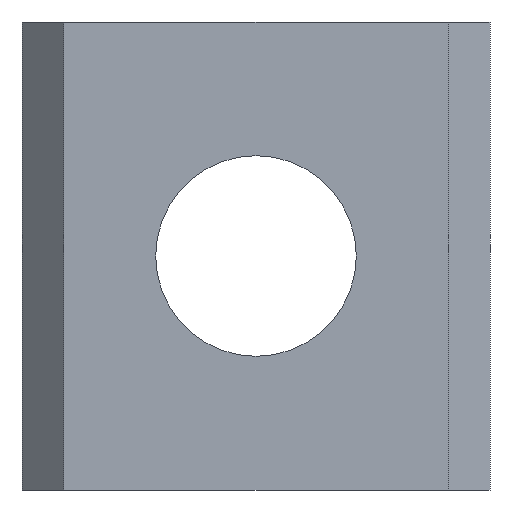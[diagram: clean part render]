
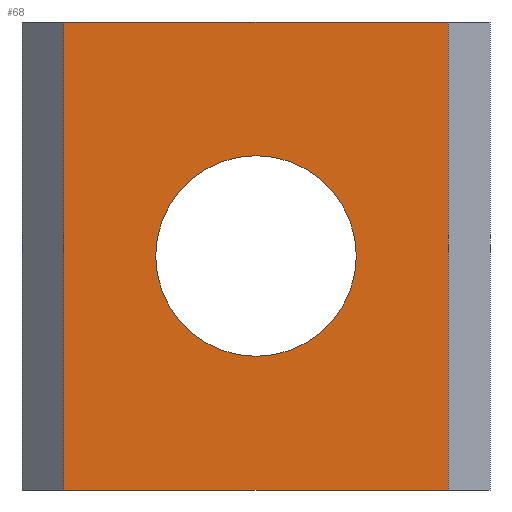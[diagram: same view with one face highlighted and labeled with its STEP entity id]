
A CAD part, front view. The second image highlights one B-rep face of the part: STEP entity #68.
In plain terms, the highlighted planar face has unit normal (0, -1, 0).
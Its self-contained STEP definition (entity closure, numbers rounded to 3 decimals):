
#6 = EDGE_CURVE ( 'NONE', #562, #292, #99, .T. ) ;
#7 = EDGE_CURVE ( 'NONE', #292, #287, #326, .T. ) ;
#54 = VECTOR ( 'NONE', #538, 1000. ) ;
#57 = CARTESIAN_POINT ( 'NONE',  ( -11.5, -10., 14. ) ) ;
#58 = VERTEX_POINT ( 'NONE', #311 ) ;
#68 = ADVANCED_FACE ( 'NONE', ( #183, #412 ), #212, .F. ) ;
#85 = CARTESIAN_POINT ( 'NONE',  ( -11.5, -10., -14. ) ) ;
#99 = LINE ( 'NONE', #165, #554 ) ;
#100 = DIRECTION ( 'NONE',  ( 0., 1., 0. ) ) ;
#114 = VERTEX_POINT ( 'NONE', #125 ) ;
#121 = AXIS2_PLACEMENT_3D ( 'NONE', #271, #207, #206 ) ;
#125 = CARTESIAN_POINT ( 'NONE',  ( 0., -10., -6. ) ) ;
#143 = ORIENTED_EDGE ( 'NONE', *, *, #7, .F. ) ;
#158 = VERTEX_POINT ( 'NONE', #85 ) ;
#165 = CARTESIAN_POINT ( 'NONE',  ( -11.5, -10., 14. ) ) ;
#166 = ORIENTED_EDGE ( 'NONE', *, *, #377, .T. ) ;
#168 = ORIENTED_EDGE ( 'NONE', *, *, #452, .T. ) ;
#177 = ORIENTED_EDGE ( 'NONE', *, *, #353, .T. ) ;
#181 = LINE ( 'NONE', #368, #54 ) ;
#183 = FACE_BOUND ( 'NONE', #497, .T. ) ;
#192 = CARTESIAN_POINT ( 'NONE',  ( 0., -10., 0. ) ) ;
#205 = VECTOR ( 'NONE', #481, 1000. ) ;
#206 = DIRECTION ( 'NONE',  ( 0., 0., 1. ) ) ;
#207 = DIRECTION ( 'NONE',  ( 0., 1., 0. ) ) ;
#212 = PLANE ( 'NONE',  #121 ) ;
#238 = DIRECTION ( 'NONE',  ( 0., 0., 1. ) ) ;
#240 = DIRECTION ( 'NONE',  ( 0., 0., -1. ) ) ;
#269 = CARTESIAN_POINT ( 'NONE',  ( 11.5, -10., 14. ) ) ;
#271 = CARTESIAN_POINT ( 'NONE',  ( -11.5, -10., 14. ) ) ;
#287 = VERTEX_POINT ( 'NONE', #528 ) ;
#292 = VERTEX_POINT ( 'NONE', #269 ) ;
#303 = CIRCLE ( 'NONE', #350, 6. ) ;
#311 = CARTESIAN_POINT ( 'NONE',  ( 0., -10., 6. ) ) ;
#326 = LINE ( 'NONE', #439, #205 ) ;
#350 = AXIS2_PLACEMENT_3D ( 'NONE', #369, #100, #420 ) ;
#353 = EDGE_CURVE ( 'NONE', #158, #287, #181, .T. ) ;
#368 = CARTESIAN_POINT ( 'NONE',  ( -11.5, -10., -14. ) ) ;
#369 = CARTESIAN_POINT ( 'NONE',  ( 0., -10., 0. ) ) ;
#377 = EDGE_CURVE ( 'NONE', #114, #58, #303, .T. ) ;
#390 = EDGE_CURVE ( 'NONE', #58, #114, #523, .T. ) ;
#398 = VECTOR ( 'NONE', #240, 1000. ) ;
#412 = FACE_OUTER_BOUND ( 'NONE', #447, .T. ) ;
#419 = AXIS2_PLACEMENT_3D ( 'NONE', #192, #503, #238 ) ;
#420 = DIRECTION ( 'NONE',  ( 0., 0., 1. ) ) ;
#439 = CARTESIAN_POINT ( 'NONE',  ( 11.5, -10., 14. ) ) ;
#440 = DIRECTION ( 'NONE',  ( 1., 0., 0. ) ) ;
#447 = EDGE_LOOP ( 'NONE', ( #177, #143, #454, #168 ) ) ;
#452 = EDGE_CURVE ( 'NONE', #562, #158, #512, .T. ) ;
#454 = ORIENTED_EDGE ( 'NONE', *, *, #6, .F. ) ;
#481 = DIRECTION ( 'NONE',  ( 0., 0., -1. ) ) ;
#497 = EDGE_LOOP ( 'NONE', ( #513, #166 ) ) ;
#503 = DIRECTION ( 'NONE',  ( 0., 1., 0. ) ) ;
#509 = CARTESIAN_POINT ( 'NONE',  ( -11.5, -10., 14. ) ) ;
#512 = LINE ( 'NONE', #509, #398 ) ;
#513 = ORIENTED_EDGE ( 'NONE', *, *, #390, .T. ) ;
#523 = CIRCLE ( 'NONE', #419, 6. ) ;
#528 = CARTESIAN_POINT ( 'NONE',  ( 11.5, -10., -14. ) ) ;
#538 = DIRECTION ( 'NONE',  ( 1., 0., 0. ) ) ;
#554 = VECTOR ( 'NONE', #440, 1000. ) ;
#562 = VERTEX_POINT ( 'NONE', #57 ) ;
